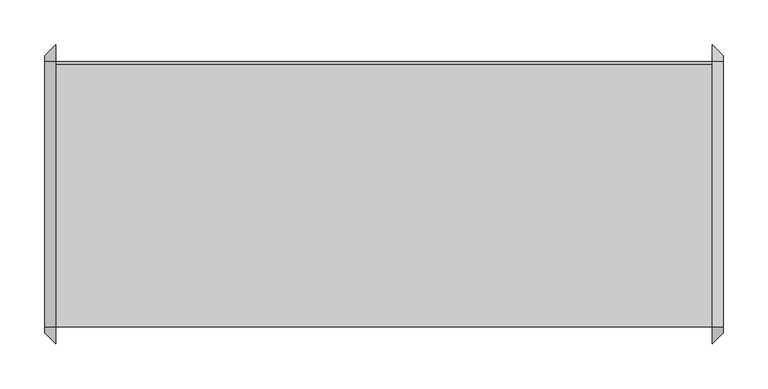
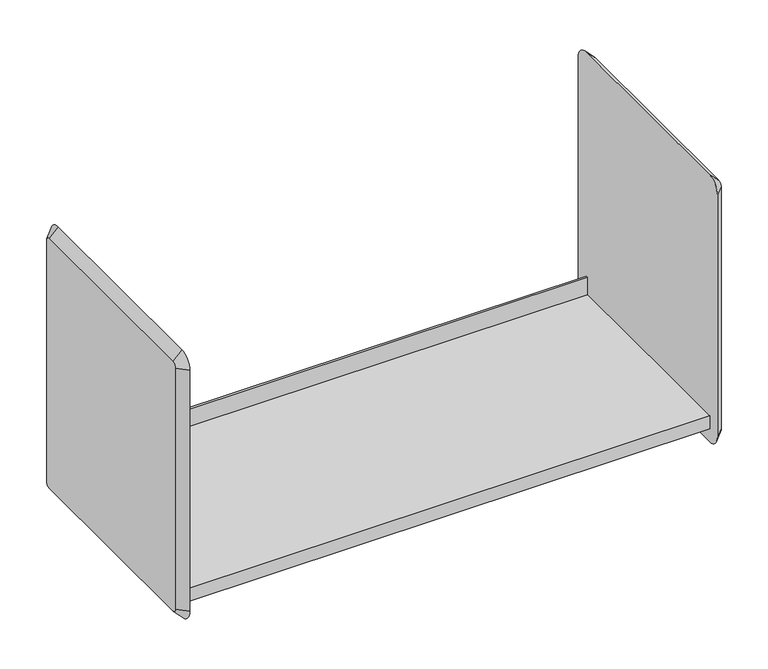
"""IFC4 building model written with IfcOpenShell, lengths in millimetres: furniture geometry, HermanMiller_CoStruc_B-StyleShelf : 15-1/2H x 13D x 30W."""

from ifc_helpers import new_model, si_unit, frame, origin, place, context, project, spatial, polyline, circle_curve, outline, extrude, source, transform, mapped, element, save
from ifc_brep_helpers import plane_surface, revolved_surface, advanced_brep


def furniture_10db817a(model_context):
    return source(origin(), model_context, "Body", "SolidModel", [
        extrude(outline(polyline([(-136.525, 1219.2), (158.75, 1219.2), (158.75, 1244.6), (161.925, 1244.6), (161.925, 1200.1152313), (-136.525, 1200.1152313), (-136.525, 1219.2)])), frame((-492.2420045, 0.0, 0.0), z_axis=(1.0, 0.0, 0.0), x_axis=(0.0, 1.0, 0.0)), (0.0, 0.0, 1.0), 736.6),
        advanced_brep(
        [(244.3579955, -155.575, 1555.75), (244.3579955, -155.575, 1200.15), (257.0579955, -142.875, 1200.15), (257.0579955, -142.875, 1555.75), (257.0579955, 161.925, 1562.1), (257.0579955, -136.525, 1562.1), (257.0579955, -136.525, 1193.8), (257.0579955, 161.925, 1193.8), (257.0579955, 168.275, 1200.15), (257.0579955, 168.275, 1555.75), (244.3579955, -136.525, 1181.1), (244.3579955, 161.925, 1181.1), (244.3579955, 180.975, 1200.15), (244.3579955, 180.975, 1555.75), (244.3579955, 161.925, 1574.8), (244.3579955, -136.525, 1574.8)],
        [
            (0, 1),
            (1, 2),
            (2, 3),
            (3, 0),
            (4, 5),
            (5, 3, circle_curve(frame((257.0579955, -136.525, 1555.75), z_axis=(1.0, 0.0, 0.0), x_axis=(0.0, 0.0, 1.0)), 6.35)),
            (2, 6, circle_curve(frame((257.0579955, -136.525, 1200.15), z_axis=(1.0, 0.0, 0.0), x_axis=(0.0, -1.0, 0.0)), 6.35)),
            (6, 7),
            (7, 8, circle_curve(frame((257.0579955, 161.925, 1200.15), z_axis=(1.0, 0.0, 0.0), x_axis=(0.0, 0.0, -1.0)), 6.35)),
            (8, 9),
            (9, 4, circle_curve(frame((257.0579955, 161.925, 1555.75), z_axis=(1.0, 0.0, 0.0), x_axis=(0.0, 1.0, 0.0)), 6.35)),
            (1, 10, circle_curve(frame((244.3579955, -136.525, 1200.15), z_axis=(1.0, 0.0, 0.0), x_axis=(0.0, -1.0, 0.0)), 19.05)),
            (10, 6),
            (10, 11),
            (11, 7),
            (11, 12, circle_curve(frame((244.3579955, 161.925, 1200.15), z_axis=(1.0, 0.0, 0.0), x_axis=(0.0, 0.0, -1.0)), 19.05)),
            (12, 8),
            (12, 13),
            (13, 9),
            (14, 13, circle_curve(frame((244.3579955, 161.925, 1555.75), z_axis=(-1.0, 0.0, 0.0), x_axis=(0.0, 1.0, 0.0)), 19.05)),
            (0, 15, circle_curve(frame((244.3579955, -136.525, 1555.75), z_axis=(-1.0, 0.0, 0.0), x_axis=(0.0, 0.0, 1.0)), 19.05)),
            (15, 14),
            (15, 5),
            (4, 14),
        ],
        [
            plane_surface(frame((244.3579955, -155.575, 1377.95), z_axis=(0.7071067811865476, -0.7071067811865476, 0.0), x_axis=(0.0, 0.0, -1.0))),
            plane_surface(frame((257.0579955, 12.7, 1377.95), z_axis=(1.0, 0.0, 0.0), x_axis=(0.0, -1.0, 0.0))),
            revolved_surface(polyline([(257.0579955, -142.875, 1200.15), (244.3579955, -155.575, 1200.15)]), (263.4079955, -136.525, 1200.15), (-1.0, 0.0, 0.0)),
            plane_surface(frame((244.3579955, 12.7, 1181.1), z_axis=(0.707106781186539, 0.0, -0.707106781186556), x_axis=(0.0, 1.0, 0.0))),
            revolved_surface(polyline([(257.0579955, 161.925, 1193.8), (244.3579955, 161.925, 1181.1)]), (263.4079955, 161.925, 1200.15), (-1.0, 0.0, 0.0)),
            plane_surface(frame((244.3579955, 180.975, 1377.95), z_axis=(0.7071067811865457, 0.7071067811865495, 0.0), x_axis=(0.0, 0.0, 1.0))),
            plane_surface(frame((244.3579955, 12.7, 1377.95), z_axis=(-1.0, 0.0, 0.0), x_axis=(0.0, -1.0, 0.0))),
            plane_surface(frame((244.3579955, 12.7, 1574.8), z_axis=(0.7071067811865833, 0.0, 0.7071067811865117), x_axis=(0.0, -1.0, 0.0))),
            revolved_surface(polyline([(257.0579955, -136.525, 1562.1), (244.3579955, -136.525, 1574.8)]), (263.4079955, -136.525, 1555.75), (-1.0, 0.0, 0.0)),
            revolved_surface(polyline([(257.0579955, 168.275, 1555.75), (244.3579955, 180.975, 1555.75)]), (263.4079955, 161.925, 1555.75), (-1.0, 0.0, 0.0)),
        ],
        [
            (0, [[1, 2, 3, 4]]),
            (1, [[5, 6, -3, 7, 8, 9, 10, 11]]),
            (2, [[12, 13, -7, -2]]),
            (3, [[14, 15, -8, -13]]),
            (4, [[16, 17, -9, -15]]),
            (5, [[18, 19, -10, -17]]),
            (6, [[20, -18, -16, -14, -12, -1, 21, 22]]),
            (7, [[-22, 23, -5, 24]]),
            (8, [[-21, -4, -6, -23]]),
            (9, [[-20, -24, -11, -19]]),
        ],
    ),
        advanced_brep(
        [(-492.2420045, 180.975, 1555.75), (-492.2420045, 180.975, 1200.15), (-504.9420045, 168.275, 1200.15), (-504.9420045, 168.275, 1555.75), (-504.9420045, -136.525, 1562.1), (-504.9420045, 161.925, 1562.1), (-504.9420045, 161.925, 1193.8), (-504.9420045, -136.525, 1193.8), (-504.9420045, -142.875, 1200.15), (-504.9420045, -142.875, 1555.75), (-492.2420045, 161.925, 1181.1), (-492.2420045, -136.525, 1181.1), (-492.2420045, -155.575, 1200.15), (-492.2420045, -155.575, 1555.75), (-492.2420045, -136.525, 1574.8), (-492.2420045, 161.925, 1574.8)],
        [
            (0, 1),
            (1, 2),
            (2, 3),
            (3, 0),
            (4, 5),
            (5, 3, circle_curve(frame((-504.9420045, 161.925, 1555.75), z_axis=(-1.0, 4.822808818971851e-12, 2.32347474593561e-12), x_axis=(2.323422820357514e-12, 0.0, 1.0)), 6.35)),
            (2, 6, circle_curve(frame((-504.9420045, 161.925, 1200.15), z_axis=(-1.0, 1.0604850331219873e-12, 7.204903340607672e-12), x_axis=(1.060440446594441e-12, 1.0, 0.0)), 6.35)),
            (6, 7),
            (7, 8, circle_curve(frame((-504.9420045, -136.525, 1200.15), z_axis=(-1.0, 1.4002132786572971e-12, 0.0), x_axis=(0.0, 0.0, -1.0)), 6.35)),
            (8, 9),
            (9, 4, circle_curve(frame((-504.9420045, -136.525, 1555.75), z_axis=(-1.0, 0.0, 3.048228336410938e-12), x_axis=(0.0, -1.0, 0.0)), 6.35)),
            (1, 10, circle_curve(frame((-492.2420045, 161.925, 1200.15), z_axis=(-1.0, 1.0604850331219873e-12, 7.204903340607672e-12), x_axis=(1.060440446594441e-12, 1.0, 0.0)), 19.05)),
            (10, 6),
            (10, 11),
            (11, 7),
            (11, 12, circle_curve(frame((-492.2420045, -136.525, 1200.15), z_axis=(-1.0, 1.4002132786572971e-12, 0.0), x_axis=(0.0, 0.0, -1.0)), 19.05)),
            (12, 8),
            (12, 13),
            (13, 9),
            (14, 13, circle_curve(frame((-492.2420045, -136.525, 1555.75), z_axis=(1.0, 0.0, -3.048228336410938e-12), x_axis=(0.0, -1.0, 0.0)), 19.05)),
            (0, 15, circle_curve(frame((-492.2420045, 161.925, 1555.75), z_axis=(1.0, -4.822808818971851e-12, -2.32347474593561e-12), x_axis=(2.323422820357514e-12, 0.0, 1.0)), 19.05)),
            (15, 14),
            (15, 5),
            (4, 14),
        ],
        [
            plane_surface(frame((-492.2420045, 180.975, 1377.95), z_axis=(-0.7071067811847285, 0.7071067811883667, 0.0), x_axis=(0.0, 0.0, -1.0))),
            plane_surface(frame((-504.9420045, 12.7, 1377.95), z_axis=(-1.0, 0.0, 0.0), x_axis=(0.0, -1.0, 0.0))),
            revolved_surface(polyline([(-504.9420045, 168.27500000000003, 1200.15), (-492.24200449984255, 180.97500000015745, 1200.15)]), (-511.2920045, 161.925, 1200.15), (1.0, -1.0604850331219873e-12, -7.204903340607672e-12)),
            plane_surface(frame((-492.2420045, 12.7, 1181.1), z_axis=(-0.7071067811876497, 0.0, -0.7071067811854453), x_axis=(0.0, -1.0, 0.0))),
            revolved_surface(polyline([(-504.9420045, -136.525, 1193.8), (-492.24200449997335, -136.525, 1181.0999999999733)]), (-511.2920045, -136.525, 1200.15), (1.0, -1.4002132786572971e-12, 0.0)),
            plane_surface(frame((-492.2420045, -155.575, 1377.95), z_axis=(-0.7071067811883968, -0.7071067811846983, 0.0), x_axis=(0.0, 0.0, 1.0))),
            plane_surface(frame((-492.2420045, 12.7, 1377.95), z_axis=(1.0, 0.0, 0.0), x_axis=(0.0, -1.0, 0.0))),
            plane_surface(frame((-492.2420045, 12.7, 1574.8), z_axis=(-0.7071067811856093, 0.0, 0.7071067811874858), x_axis=(0.0, 1.0, 0.0))),
            revolved_surface(polyline([(-504.94200450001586, 161.925, 1562.0999999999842), (-492.2420044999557, 161.925, 1574.8000000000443)]), (-511.2920045, 161.925, 1555.75), (1.0, -4.822808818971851e-12, -2.32347474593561e-12)),
            revolved_surface(polyline([(-504.9420045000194, -142.87499999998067, 1555.75), (-492.2420045, -155.575, 1555.75)]), (-511.2920045, -136.525, 1555.75), (1.0, 0.0, -3.048228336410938e-12)),
        ],
        [
            (0, [[1, 2, 3, 4]]),
            (1, [[5, 6, -3, 7, 8, 9, 10, 11]]),
            (2, [[12, 13, -7, -2]]),
            (3, [[14, 15, -8, -13]]),
            (4, [[16, 17, -9, -15]]),
            (5, [[18, 19, -10, -17]]),
            (6, [[20, -18, -16, -14, -12, -1, 21, 22]]),
            (7, [[-22, 23, -5, 24]]),
            (8, [[-21, -4, -6, -23]]),
            (9, [[-20, -24, -11, -19]]),
        ],
    ),
    ])


if __name__ == "__main__":
    model = new_model("IFC4")
    model_context = context("Model", 3, world=origin())
    ifc_project = project(units=[si_unit("LENGTHUNIT", "METRE", prefix="MILLI")], contexts=[model_context])
    site = spatial("IfcSite", under=ifc_project)
    building = spatial("IfcBuilding", under=site)
    placement = place(None, origin())
    furniture_shape = furniture_10db817a(model_context)
    element("IfcFurniture", 1, ObjectType="HermanMiller_CoStruc_B-StyleShelf : 15-1/2H x 13D x 30W", at=placement, inside=building, context=model_context, shape_type="MappedRepresentation", body=[
        mapped(furniture_shape, transform((0.0, 0.0, 0.0), x_axis=(1.0, 0.0, 0.0), y_axis=(0.0, 1.0, 0.0), z_axis=(0.0, 0.0, 1.0))),
    ])
    save(model, "model.ifc")
